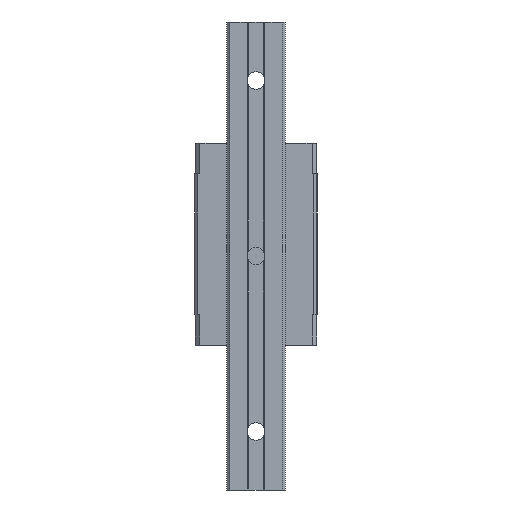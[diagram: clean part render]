
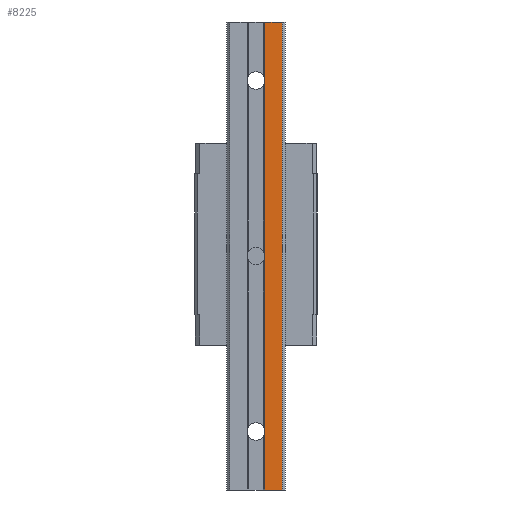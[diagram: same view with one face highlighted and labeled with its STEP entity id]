
A CAD part, front view. The second image highlights one B-rep face of the part: STEP entity #8225.
In plain terms, the highlighted planar face has unit normal (0, -1, 0).
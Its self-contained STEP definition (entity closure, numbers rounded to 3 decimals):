
#7076=DIRECTION('',(-1.,0.,0.));
#7077=VECTOR('',#7076,6.);
#7078=CARTESIAN_POINT('',(9.,-15.5,100.));
#7079=LINE('',#7078,#7077);
#7219=DIRECTION('',(0.,0.,-1.));
#7220=VECTOR('',#7219,160.);
#7221=CARTESIAN_POINT('',(9.,-15.5,100.));
#7222=LINE('',#7221,#7220);
#7223=DIRECTION('',(-1.,0.,0.));
#7224=VECTOR('',#7223,6.);
#7225=CARTESIAN_POINT('',(9.,-15.5,-60.));
#7226=LINE('',#7225,#7224);
#7227=DIRECTION('',(0.,0.,-1.));
#7228=VECTOR('',#7227,20.);
#7229=CARTESIAN_POINT('',(3.,-15.5,100.));
#7230=LINE('',#7229,#7228);
#7445=DIRECTION('',(0.,0.,-1.));
#7446=VECTOR('',#7445,60.);
#7447=CARTESIAN_POINT('',(3.,-15.5,80.));
#7448=LINE('',#7447,#7446);
#7537=DIRECTION('',(0.,0.,-1.));
#7538=VECTOR('',#7537,60.);
#7539=CARTESIAN_POINT('',(3.,-15.5,20.));
#7540=LINE('',#7539,#7538);
#7623=DIRECTION('',(0.,0.,-1.));
#7624=VECTOR('',#7623,20.);
#7625=CARTESIAN_POINT('',(3.,-15.5,
-40.));
#7626=LINE('',#7625,#7624);
#7707=CARTESIAN_POINT('',(3.,-15.5,-60.));
#7708=VERTEX_POINT('',#7707);
#7709=CARTESIAN_POINT('',(9.,-15.5,-60.));
#7710=VERTEX_POINT('',#7709);
#7753=CARTESIAN_POINT('',(9.,-15.5,100.));
#7754=VERTEX_POINT('',#7753);
#7755=CARTESIAN_POINT('',(3.,-15.5,100.));
#7756=VERTEX_POINT('',#7755);
#7793=CARTESIAN_POINT('',(3.,-15.5,80.));
#7794=VERTEX_POINT('',#7793);
#7795=CARTESIAN_POINT('',(3.,-15.5,
-40.));
#7796=VERTEX_POINT('',#7795);
#7797=CARTESIAN_POINT('',(3.,-15.5,20.));
#7798=VERTEX_POINT('',#7797);
#8207=CARTESIAN_POINT('',(3.,-15.5,-30.));
#8208=DIRECTION('',(0.,-1.,0.));
#8209=DIRECTION('',(1.,0.,0.));
#8210=AXIS2_PLACEMENT_3D('',#8207,#8208,#8209);
#8211=PLANE('',#8210);
#8213=ORIENTED_EDGE('',*,*,#8212,.F.);
#8214=ORIENTED_EDGE('',*,*,#8020,.F.);
#8215=ORIENTED_EDGE('',*,*,#8200,.T.);
#8216=ORIENTED_EDGE('',*,*,#7949,.T.);
#8218=ORIENTED_EDGE('',*,*,#8217,.F.);
#8220=ORIENTED_EDGE('',*,*,#8219,.F.);
#8222=ORIENTED_EDGE('',*,*,#8221,.F.);
#8223=EDGE_LOOP('',(#8213,#8214,#8215,#8216,#8218,#8220,#8222));
#8224=FACE_OUTER_BOUND('',#8223,.F.);
#8225=ADVANCED_FACE('',(#8224),#8211,.T.);
#7949=EDGE_CURVE('',#7710,#7708,#7226,.T.);
#8020=EDGE_CURVE('',#7754,#7756,#7079,.T.);
#8200=EDGE_CURVE('',#7754,#7710,#7222,.T.);
#8212=EDGE_CURVE('',#7756,#7794,#7230,.T.);
#8217=EDGE_CURVE('',#7796,#7708,#7626,.T.);
#8219=EDGE_CURVE('',#7798,#7796,#7540,.T.);
#8221=EDGE_CURVE('',#7794,#7798,#7448,.T.);
